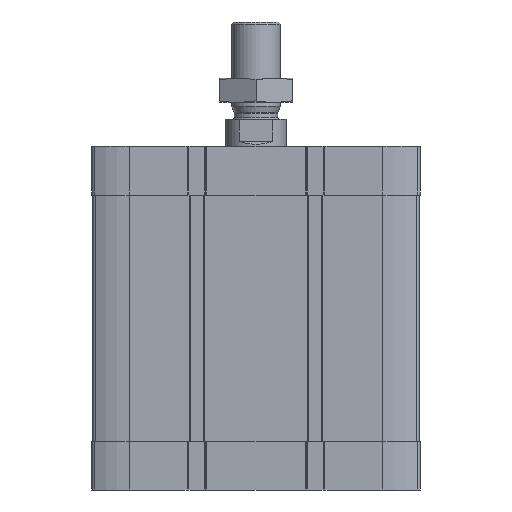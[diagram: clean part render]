
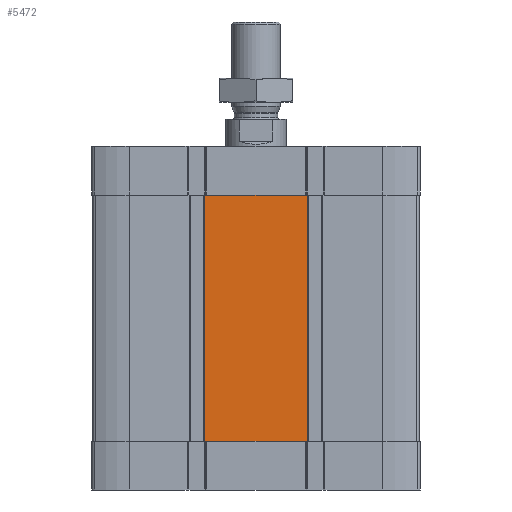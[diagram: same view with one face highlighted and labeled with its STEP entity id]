
A CAD part, front view. The second image highlights one B-rep face of the part: STEP entity #5472.
In plain terms, the highlighted planar face has unit normal (0, -1, 0).
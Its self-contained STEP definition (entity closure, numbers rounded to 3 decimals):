
#123 = CARTESIAN_POINT ( 'NONE',  ( -20.687, -67., -20. ) ) ;
#607 = DIRECTION ( 'NONE',  ( 0., 0., 1. ) ) ;
#636 = ORIENTED_EDGE ( 'NONE', *, *, #5514, .F. ) ;
#1452 = VERTEX_POINT ( 'NONE', #11148 ) ;
#1724 = VERTEX_POINT ( 'NONE', #5538 ) ;
#1790 = EDGE_LOOP ( 'NONE', ( #14309, #6458, #15979, #2574, #4750, #4394, #9331, #636 ) ) ;
#1791 = CARTESIAN_POINT ( 'NONE',  ( 21.3, -67., -20. ) ) ;
#1985 = CARTESIAN_POINT ( 'NONE',  ( -67., -67., -121. ) ) ;
#1987 = LINE ( 'NONE', #10536, #5149 ) ;
#2266 = DIRECTION ( 'NONE',  ( 0., 0., 1. ) ) ;
#2504 = VERTEX_POINT ( 'NONE', #14184 ) ;
#2574 = ORIENTED_EDGE ( 'NONE', *, *, #15203, .T. ) ;
#2675 = VECTOR ( 'NONE', #3535, 1000. ) ;
#2704 = LINE ( 'NONE', #16302, #16515 ) ;
#3383 = CARTESIAN_POINT ( 'NONE',  ( -67., -67., -20. ) ) ;
#3535 = DIRECTION ( 'NONE',  ( 1., 0., 0. ) ) ;
#4045 = CARTESIAN_POINT ( 'NONE',  ( 20.687, -67., -20. ) ) ;
#4283 = DIRECTION ( 'NONE',  ( 1., 0., 0. ) ) ;
#4394 = ORIENTED_EDGE ( 'NONE', *, *, #7151, .F. ) ;
#4750 = ORIENTED_EDGE ( 'NONE', *, *, #4760, .T. ) ;
#4760 = EDGE_CURVE ( 'NONE', #2504, #9206, #1987, .T. ) ;
#4890 = VERTEX_POINT ( 'NONE', #16004 ) ;
#5149 = VECTOR ( 'NONE', #607, 1000. ) ;
#5472 = ADVANCED_FACE ( 'NONE', ( #13101 ), #10357, .T. ) ;
#5514 = EDGE_CURVE ( 'NONE', #1452, #6281, #17138, .T. ) ;
#5538 = CARTESIAN_POINT ( 'NONE',  ( -20.687, -67., -121. ) ) ;
#5826 = CARTESIAN_POINT ( 'NONE',  ( -67., -67., -121. ) ) ;
#6051 = CARTESIAN_POINT ( 'NONE',  ( -21.3, -67., -121. ) ) ;
#6191 = LINE ( 'NONE', #16095, #2675 ) ;
#6281 = VERTEX_POINT ( 'NONE', #123 ) ;
#6315 = DIRECTION ( 'NONE',  ( 0., 0., -1. ) ) ;
#6458 = ORIENTED_EDGE ( 'NONE', *, *, #10281, .T. ) ;
#6654 = LINE ( 'NONE', #17646, #7969 ) ;
#6854 = EDGE_CURVE ( 'NONE', #9311, #1452, #17940, .T. ) ;
#6969 = VECTOR ( 'NONE', #9072, 1000. ) ;
#7151 = EDGE_CURVE ( 'NONE', #16277, #9206, #6191, .T. ) ;
#7262 = EDGE_CURVE ( 'NONE', #6281, #16277, #6654, .T. ) ;
#7969 = VECTOR ( 'NONE', #9250, 1000. ) ;
#8596 = LINE ( 'NONE', #5826, #16205 ) ;
#9072 = DIRECTION ( 'NONE',  ( 1., 0., 0. ) ) ;
#9206 = VERTEX_POINT ( 'NONE', #1791 ) ;
#9250 = DIRECTION ( 'NONE',  ( 1., 0., 0. ) ) ;
#9311 = VERTEX_POINT ( 'NONE', #17649 ) ;
#9331 = ORIENTED_EDGE ( 'NONE', *, *, #7262, .F. ) ;
#10281 = EDGE_CURVE ( 'NONE', #9311, #1724, #2704, .T. ) ;
#10357 = PLANE ( 'NONE',  #11942 ) ;
#10451 = DIRECTION ( 'NONE',  ( 0., -1., 0. ) ) ;
#10536 = CARTESIAN_POINT ( 'NONE',  ( 21.3, -67., -121. ) ) ;
#11148 = CARTESIAN_POINT ( 'NONE',  ( -21.3, -67., -20. ) ) ;
#11471 = VECTOR ( 'NONE', #2266, 1000. ) ;
#11942 = AXIS2_PLACEMENT_3D ( 'NONE', #1985, #10451, #6315 ) ;
#12349 = CARTESIAN_POINT ( 'NONE',  ( -21.3, -67., -121. ) ) ;
#12919 = LINE ( 'NONE', #6051, #12947 ) ;
#12947 = VECTOR ( 'NONE', #13029, 1000. ) ;
#13029 = DIRECTION ( 'NONE',  ( 1., 0., 0. ) ) ;
#13101 = FACE_OUTER_BOUND ( 'NONE', #1790, .T. ) ;
#13241 = EDGE_CURVE ( 'NONE', #1724, #4890, #12919, .T. ) ;
#13714 = DIRECTION ( 'NONE',  ( 1., 0., 0. ) ) ;
#14184 = CARTESIAN_POINT ( 'NONE',  ( 21.3, -67., -121. ) ) ;
#14309 = ORIENTED_EDGE ( 'NONE', *, *, #6854, .F. ) ;
#15203 = EDGE_CURVE ( 'NONE', #4890, #2504, #8596, .T. ) ;
#15979 = ORIENTED_EDGE ( 'NONE', *, *, #13241, .T. ) ;
#16004 = CARTESIAN_POINT ( 'NONE',  ( 20.687, -67., -121. ) ) ;
#16095 = CARTESIAN_POINT ( 'NONE',  ( -67., -67., -20. ) ) ;
#16205 = VECTOR ( 'NONE', #4283, 1000. ) ;
#16277 = VERTEX_POINT ( 'NONE', #4045 ) ;
#16302 = CARTESIAN_POINT ( 'NONE',  ( -67., -67., -121. ) ) ;
#16515 = VECTOR ( 'NONE', #13714, 1000. ) ;
#17138 = LINE ( 'NONE', #3383, #6969 ) ;
#17646 = CARTESIAN_POINT ( 'NONE',  ( -21.3, -67., -20. ) ) ;
#17649 = CARTESIAN_POINT ( 'NONE',  ( -21.3, -67., -121. ) ) ;
#17940 = LINE ( 'NONE', #12349, #11471 ) ;
